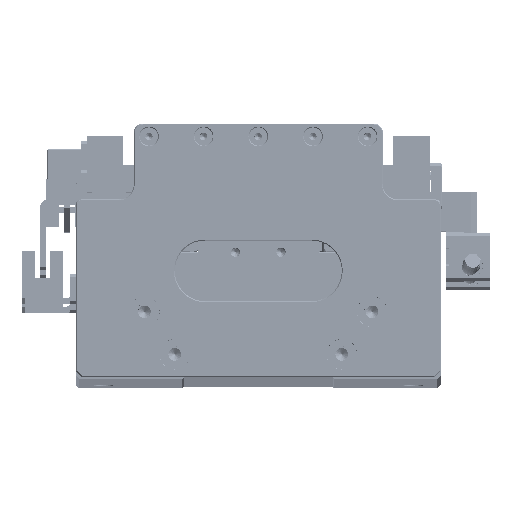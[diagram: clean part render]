
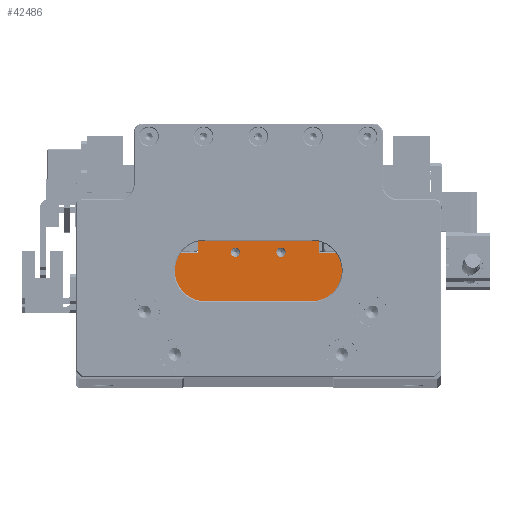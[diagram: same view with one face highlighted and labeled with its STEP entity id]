
A CAD part, top view. The second image highlights one B-rep face of the part: STEP entity #42486.
In plain terms, the highlighted planar face has unit normal (0, 0, 1).
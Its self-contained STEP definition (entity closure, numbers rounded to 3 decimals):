
#1779 = VERTEX_POINT ( 'NONE', #29443 ) ;
#3843 = DIRECTION ( 'NONE',  ( 0., -1., 0. ) ) ;
#7837 = CIRCLE ( 'NONE', #38916, 1.525 ) ;
#8272 = CARTESIAN_POINT ( 'NONE',  ( -7.5, 25.7, 83.854 ) ) ;
#8426 = LINE ( 'NONE', #8272, #114951 ) ;
#8701 = VERTEX_POINT ( 'NONE', #58159 ) ;
#10782 = VECTOR ( 'NONE', #58737, 1000. ) ;
#11729 = EDGE_CURVE ( 'NONE', #117711, #1779, #85592, .T. ) ;
#13796 = CARTESIAN_POINT ( 'NONE',  ( 20., 25.7, 83.854 ) ) ;
#14081 = CARTESIAN_POINT ( 'NONE',  ( -29.9, 18.2, 83.854 ) ) ;
#14794 = CARTESIAN_POINT ( 'NONE',  ( -7.5, 25.7, 83.854 ) ) ;
#16454 = ORIENTED_EDGE ( 'NONE', *, *, #59102, .F. ) ;
#16543 = DIRECTION ( 'NONE',  ( 0., 0., 1. ) ) ;
#16879 = VECTOR ( 'NONE', #105809, 1000. ) ;
#18178 = ORIENTED_EDGE ( 'NONE', *, *, #32866, .F. ) ;
#19317 = DIRECTION ( 'NONE',  ( -1., 0., 0. ) ) ;
#24236 = ORIENTED_EDGE ( 'NONE', *, *, #68305, .F. ) ;
#26208 = DIRECTION ( 'NONE',  ( 1., 0., 0. ) ) ;
#28930 = VERTEX_POINT ( 'NONE', #13796 ) ;
#29443 = CARTESIAN_POINT ( 'NONE',  ( -29.9, 25.7, 83.854 ) ) ;
#31813 = ORIENTED_EDGE ( 'NONE', *, *, #54259, .F. ) ;
#32188 = EDGE_CURVE ( 'NONE', #44965, #59400, #56353, .T. ) ;
#32704 = FACE_BOUND ( 'NONE', #72125, .T. ) ;
#32855 = LINE ( 'NONE', #123849, #56408 ) ;
#32866 = EDGE_CURVE ( 'NONE', #8701, #67891, #7837, .T. ) ;
#33200 = ORIENTED_EDGE ( 'NONE', *, *, #126141, .F. ) ;
#33372 = DIRECTION ( 'NONE',  ( 0., 0., 1. ) ) ;
#35119 = ORIENTED_EDGE ( 'NONE', *, *, #32188, .F. ) ;
#35410 = VECTOR ( 'NONE', #54400, 1000. ) ;
#36966 = CARTESIAN_POINT ( 'NONE',  ( 29.9, 6.5, 83.854 ) ) ;
#37406 = LINE ( 'NONE', #128390, #10782 ) ;
#38916 = AXIS2_PLACEMENT_3D ( 'NONE', #53433, #123448, #63493 ) ;
#39386 = VERTEX_POINT ( 'NONE', #105800 ) ;
#41377 = VECTOR ( 'NONE', #65226, 1000. ) ;
#42486 = ADVANCED_FACE ( 'NONE', ( #59401, #86031, #32704 ), #99063, .F. ) ;
#43655 = EDGE_LOOP ( 'NONE', ( #57909, #35119 ) ) ;
#43755 = CARTESIAN_POINT ( 'NONE',  ( 20., 29.7, 83.854 ) ) ;
#44049 = CARTESIAN_POINT ( 'NONE',  ( 7.5, 25.8, 83.854 ) ) ;
#44579 = LINE ( 'NONE', #105003, #41377 ) ;
#44965 = VERTEX_POINT ( 'NONE', #78900 ) ;
#45413 = EDGE_CURVE ( 'NONE', #117711, #53516, #127903, .T. ) ;
#45421 = EDGE_CURVE ( 'NONE', #67891, #8701, #51128, .T. ) ;
#46760 = ORIENTED_EDGE ( 'NONE', *, *, #116361, .F. ) ;
#51128 = CIRCLE ( 'NONE', #56419, 1.525 ) ;
#51477 = CARTESIAN_POINT ( 'NONE',  ( -7.5, 29.7, 83.854 ) ) ;
#53433 = CARTESIAN_POINT ( 'NONE',  ( -7.5, 25.8, 83.854 ) ) ;
#53516 = VERTEX_POINT ( 'NONE', #36966 ) ;
#54161 = DIRECTION ( 'NONE',  ( 1., 0., 0. ) ) ;
#54259 = EDGE_CURVE ( 'NONE', #39386, #98520, #37406, .T. ) ;
#54400 = DIRECTION ( 'NONE',  ( 0., 1., 0. ) ) ;
#56353 = CIRCLE ( 'NONE', #90949, 1.525 ) ;
#56408 = VECTOR ( 'NONE', #3843, 1000. ) ;
#56419 = AXIS2_PLACEMENT_3D ( 'NONE', #76606, #16543, #86641 ) ;
#57055 = ORIENTED_EDGE ( 'NONE', *, *, #45413, .T. ) ;
#57768 = ORIENTED_EDGE ( 'NONE', *, *, #123677, .F. ) ;
#57872 = EDGE_CURVE ( 'NONE', #59400, #44965, #124644, .T. ) ;
#57909 = ORIENTED_EDGE ( 'NONE', *, *, #57872, .F. ) ;
#58159 = CARTESIAN_POINT ( 'NONE',  ( -5.975, 25.8, 83.854 ) ) ;
#58737 = DIRECTION ( 'NONE',  ( 0., 1., 0. ) ) ;
#59102 = EDGE_CURVE ( 'NONE', #1779, #39386, #8426, .T. ) ;
#59241 = CARTESIAN_POINT ( 'NONE',  ( -7.5, 18.2, 83.854 ) ) ;
#59400 = VERTEX_POINT ( 'NONE', #111090 ) ;
#59401 = FACE_OUTER_BOUND ( 'NONE', #112018, .T. ) ;
#63493 = DIRECTION ( 'NONE',  ( 1., 0., 0. ) ) ;
#65226 = DIRECTION ( 'NONE',  ( 0., -1., 0. ) ) ;
#66113 = CARTESIAN_POINT ( 'NONE',  ( -7.5, 6.5, 83.854 ) ) ;
#67891 = VERTEX_POINT ( 'NONE', #74685 ) ;
#68305 = EDGE_CURVE ( 'NONE', #96835, #28930, #32855, .T. ) ;
#72125 = EDGE_LOOP ( 'NONE', ( #18178, #84426 ) ) ;
#74685 = CARTESIAN_POINT ( 'NONE',  ( -9.025, 25.8, 83.854 ) ) ;
#76346 = CARTESIAN_POINT ( 'NONE',  ( -29.9, 6.5, 83.854 ) ) ;
#76606 = CARTESIAN_POINT ( 'NONE',  ( -7.5, 25.8, 83.854 ) ) ;
#77554 = VERTEX_POINT ( 'NONE', #113816 ) ;
#78545 = ORIENTED_EDGE ( 'NONE', *, *, #11729, .F. ) ;
#78900 = CARTESIAN_POINT ( 'NONE',  ( 5.975, 25.8, 83.854 ) ) ;
#79382 = DIRECTION ( 'NONE',  ( 0., 0., -1. ) ) ;
#84426 = ORIENTED_EDGE ( 'NONE', *, *, #45421, .F. ) ;
#85592 = LINE ( 'NONE', #14081, #35410 ) ;
#86031 = FACE_BOUND ( 'NONE', #43655, .T. ) ;
#86641 = DIRECTION ( 'NONE',  ( 1., 0., 0. ) ) ;
#90332 = VECTOR ( 'NONE', #101336, 1000. ) ;
#90949 = AXIS2_PLACEMENT_3D ( 'NONE', #93393, #33372, #103443 ) ;
#93393 = CARTESIAN_POINT ( 'NONE',  ( 7.5, 25.8, 83.854 ) ) ;
#93416 = AXIS2_PLACEMENT_3D ( 'NONE', #44049, #114124, #54161 ) ;
#93471 = LINE ( 'NONE', #51477, #90332 ) ;
#96835 = VERTEX_POINT ( 'NONE', #43755 ) ;
#98363 = CARTESIAN_POINT ( 'NONE',  ( -20., 29.7, 83.854 ) ) ;
#98520 = VERTEX_POINT ( 'NONE', #98363 ) ;
#99063 = PLANE ( 'NONE',  #112326 ) ;
#101205 = VECTOR ( 'NONE', #26208, 1000. ) ;
#101336 = DIRECTION ( 'NONE',  ( 1., 0., 0. ) ) ;
#103443 = DIRECTION ( 'NONE',  ( 1., 0., 0. ) ) ;
#105003 = CARTESIAN_POINT ( 'NONE',  ( 29.9, 18.2, 83.854 ) ) ;
#105800 = CARTESIAN_POINT ( 'NONE',  ( -20., 25.7, 83.854 ) ) ;
#105809 = DIRECTION ( 'NONE',  ( 1., 0., 0. ) ) ;
#108499 = DIRECTION ( 'NONE',  ( 1., 0., 0. ) ) ;
#111090 = CARTESIAN_POINT ( 'NONE',  ( 9.025, 25.8, 83.854 ) ) ;
#112018 = EDGE_LOOP ( 'NONE', ( #16454, #78545, #57055, #33200, #46760, #24236, #57768, #31813 ) ) ;
#112326 = AXIS2_PLACEMENT_3D ( 'NONE', #59241, #79382, #19317 ) ;
#113816 = CARTESIAN_POINT ( 'NONE',  ( 29.9, 25.7, 83.854 ) ) ;
#114124 = DIRECTION ( 'NONE',  ( 0., 0., 1. ) ) ;
#114951 = VECTOR ( 'NONE', #108499, 1000. ) ;
#116361 = EDGE_CURVE ( 'NONE', #28930, #77554, #126626, .T. ) ;
#117711 = VERTEX_POINT ( 'NONE', #76346 ) ;
#123448 = DIRECTION ( 'NONE',  ( 0., 0., 1. ) ) ;
#123677 = EDGE_CURVE ( 'NONE', #98520, #96835, #93471, .T. ) ;
#123849 = CARTESIAN_POINT ( 'NONE',  ( 20., 18.2, 83.854 ) ) ;
#124644 = CIRCLE ( 'NONE', #93416, 1.525 ) ;
#126141 = EDGE_CURVE ( 'NONE', #77554, #53516, #44579, .T. ) ;
#126626 = LINE ( 'NONE', #14794, #16879 ) ;
#127903 = LINE ( 'NONE', #66113, #101205 ) ;
#128390 = CARTESIAN_POINT ( 'NONE',  ( -20., 18.2, 83.854 ) ) ;
